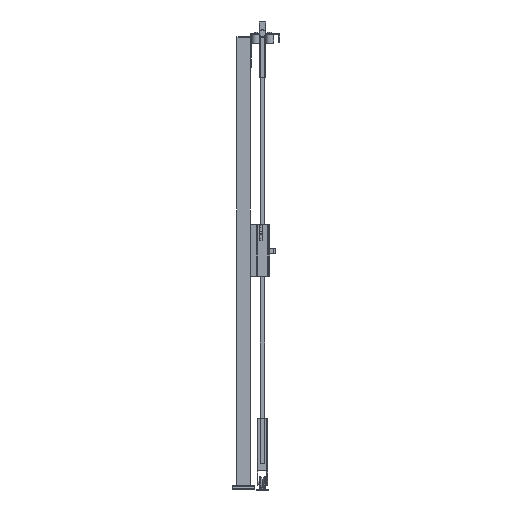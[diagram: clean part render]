
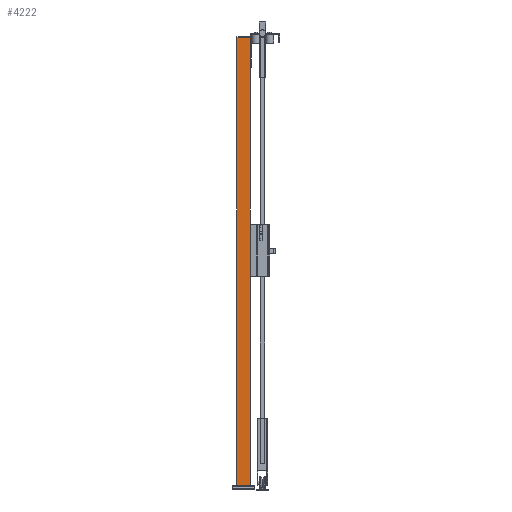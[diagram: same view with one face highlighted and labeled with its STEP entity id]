
A CAD part, left-side view. The second image highlights one B-rep face of the part: STEP entity #4222.
In plain terms, the highlighted planar face has unit normal (-1, 0, 0) as drawn and (0, 1, 0) by its records, which use the part's own axes.
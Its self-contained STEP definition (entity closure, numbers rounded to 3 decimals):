
#495=FACE_OUTER_BOUND('',#801,.T.);
#801=EDGE_LOOP('',(#2670,#2671,#2672,#2673));
#1148=VERTEX_POINT('',#8836);
#1149=VERTEX_POINT('',#8838);
#1151=VERTEX_POINT('',#8844);
#1154=VERTEX_POINT('',#8849);
#1752=EDGE_CURVE('',#1148,#1149,#4932,.T.);
#1758=EDGE_CURVE('',#1154,#1151,#4938,.T.);
#1761=EDGE_CURVE('',#1149,#1154,#4941,.T.);
#1762=EDGE_CURVE('',#1148,#1151,#4942,.T.);
#2670=ORIENTED_EDGE('',*,*,#1762,.T.);
#2671=ORIENTED_EDGE('',*,*,#1758,.F.);
#2672=ORIENTED_EDGE('',*,*,#1761,.F.);
#2673=ORIENTED_EDGE('',*,*,#1752,.F.);
#3962=PLANE('',#6254);
#4222=ADVANCED_FACE('',(#495),#3962,.F.);
#4932=LINE('',#8839,#5640);
#4938=LINE('',#8851,#5646);
#4941=LINE('',#8856,#5649);
#4942=LINE('',#8858,#5650);
#5640=VECTOR('',#6972,1.);
#5646=VECTOR('',#6980,1.);
#5649=VECTOR('',#6987,1.);
#5650=VECTOR('',#6990,1.);
#6254=AXIS2_PLACEMENT_3D('',#8857,#6988,#6989);
#6972=DIRECTION('',(-1.,0.,0.));
#6980=DIRECTION('',(1.,0.,0.));
#6987=DIRECTION('',(0.,0.,-1.));
#6988=DIRECTION('center_axis',(0.,-1.,0.));
#6989=DIRECTION('ref_axis',(0.,0.,-1.));
#6990=DIRECTION('',(0.,0.,-1.));
#8836=CARTESIAN_POINT('',(30.,30.,2020.));
#8838=CARTESIAN_POINT('',(-30.,30.,2020.));
#8839=CARTESIAN_POINT('',(0.,30.,2020.));
#8844=CARTESIAN_POINT('',(30.,30.,20.));
#8849=CARTESIAN_POINT('',(-30.,30.,20.));
#8851=CARTESIAN_POINT('',(0.,30.,20.));
#8856=CARTESIAN_POINT('',(-30.,30.,1020.));
#8857=CARTESIAN_POINT('Origin',(0.,30.,
1020.));
#8858=CARTESIAN_POINT('',(30.,30.,1020.));
